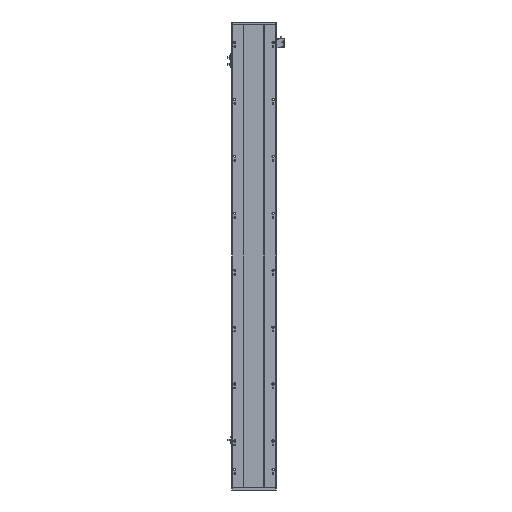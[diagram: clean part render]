
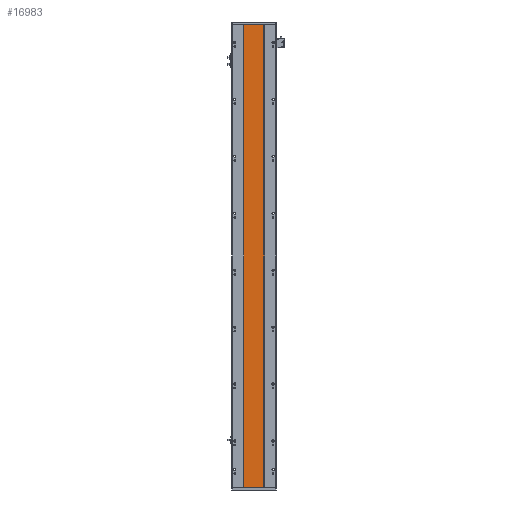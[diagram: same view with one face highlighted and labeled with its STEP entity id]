
A CAD part, front view. The second image highlights one B-rep face of the part: STEP entity #16983.
In plain terms, the highlighted planar face has unit normal (0, -1, 0).
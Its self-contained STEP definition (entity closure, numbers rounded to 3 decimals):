
#459 = DIRECTION ( 'NONE',  ( 0., 0., -1. ) ) ;
#1941 = DIRECTION ( 'NONE',  ( 0., 1., 0. ) ) ;
#2137 = EDGE_CURVE ( 'NONE', #26626, #32842, #37403, .T. ) ;
#2220 = AXIS2_PLACEMENT_3D ( 'NONE', #10671, #1941, #25485 ) ;
#3183 = EDGE_CURVE ( 'NONE', #26626, #35833, #19513, .T. ) ;
#6597 = VECTOR ( 'NONE', #29073, 1000. ) ;
#9884 = VERTEX_POINT ( 'NONE', #17263 ) ;
#10302 = VECTOR ( 'NONE', #36020, 1000. ) ;
#10671 = CARTESIAN_POINT ( 'NONE',  ( 205.288, 16.9, 1756. ) ) ;
#12225 = ORIENTED_EDGE ( 'NONE', *, *, #3183, .F. ) ;
#13051 = VECTOR ( 'NONE', #18127, 1000. ) ;
#14406 = VECTOR ( 'NONE', #459, 1000. ) ;
#15086 = CARTESIAN_POINT ( 'NONE',  ( 205.288, 16.9, 0. ) ) ;
#15822 = CARTESIAN_POINT ( 'NONE',  ( 205.288, 16.9, 1756. ) ) ;
#16741 = ORIENTED_EDGE ( 'NONE', *, *, #20562, .F. ) ;
#16983 = ADVANCED_FACE ( 'NONE', ( #24373 ), #25242, .F. ) ;
#17263 = CARTESIAN_POINT ( 'NONE',  ( 205.288, 16.9, 0. ) ) ;
#18127 = DIRECTION ( 'NONE',  ( 0., 0., -1. ) ) ;
#18244 = CARTESIAN_POINT ( 'NONE',  ( 129.288, 16.9, 0. ) ) ;
#19513 = LINE ( 'NONE', #31509, #6597 ) ;
#20551 = ORIENTED_EDGE ( 'NONE', *, *, #2137, .T. ) ;
#20562 = EDGE_CURVE ( 'NONE', #35833, #9884, #28679, .T. ) ;
#21035 = EDGE_CURVE ( 'NONE', #32842, #9884, #33316, .T. ) ;
#24325 = ORIENTED_EDGE ( 'NONE', *, *, #21035, .T. ) ;
#24373 = FACE_OUTER_BOUND ( 'NONE', #35822, .T. ) ;
#24492 = CARTESIAN_POINT ( 'NONE',  ( 129.288, 16.9, 1756. ) ) ;
#25242 = PLANE ( 'NONE',  #2220 ) ;
#25485 = DIRECTION ( 'NONE',  ( -1., 0., 0. ) ) ;
#26626 = VERTEX_POINT ( 'NONE', #24492 ) ;
#28679 = LINE ( 'NONE', #29676, #13051 ) ;
#29073 = DIRECTION ( 'NONE',  ( 1., 0., 0. ) ) ;
#29676 = CARTESIAN_POINT ( 'NONE',  ( 205.288, 16.9, 1756. ) ) ;
#31509 = CARTESIAN_POINT ( 'NONE',  ( 129.288, 16.9, 1756. ) ) ;
#32842 = VERTEX_POINT ( 'NONE', #18244 ) ;
#33316 = LINE ( 'NONE', #15086, #10302 ) ;
#35816 = CARTESIAN_POINT ( 'NONE',  ( 129.288, 16.9, 1756. ) ) ;
#35822 = EDGE_LOOP ( 'NONE', ( #24325, #16741, #12225, #20551 ) ) ;
#35833 = VERTEX_POINT ( 'NONE', #15822 ) ;
#36020 = DIRECTION ( 'NONE',  ( 1., 0., 0. ) ) ;
#37403 = LINE ( 'NONE', #35816, #14406 ) ;
